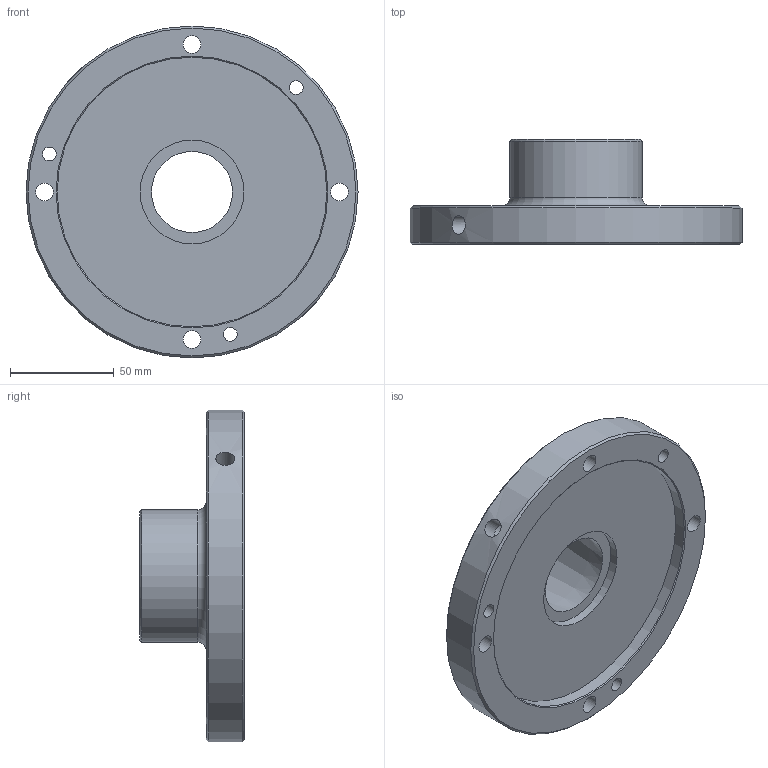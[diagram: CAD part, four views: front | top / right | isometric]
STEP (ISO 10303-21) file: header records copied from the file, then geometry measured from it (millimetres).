
FILE_DESCRIPTION(/* description */ (''),/* implementation_level */ '2;1');
FILE_NAME(/* name */ 'Z:\Проектный отдел\Влад\Фрезерные патроны\Цанговый патрон ER50UM.stp',/* time_stamp */ '2023-04-04T16:08:08+03:00',/* author */ ('инженер'),/* organization */ (''),/* preprocessor_version */ 'ST-DEVELOPER v18',/* originating_system */ 'Autodesk Inventor 2020',/* authorisation */ '');
FILE_SCHEMA (('AUTOMOTIVE_DESIGN { 1 0 10303 214 3 1 1 }'));
Length unit declared in the file: millimetre
Products named in the file (1): Цанговый патрон 
ER50UM
Bounding box: 160 x 50.6 x 160 mm (x, y, z)
Volume: 312217.1 mm3; surface area: 63522.3 mm2
Topology: 1 solids, 1 shells, 26 faces, 79 edges, 58 vertices
Faces by surface type: cylinder 13, cone 7, plane 5, torus 1
Full cylindrical faces by diameter (mm): 6.7 x3, 8.6 x4, 9 x2, 50 x1, 63.7 x1, 130 x1, 160 x1
Entity records: 1086 total; most frequent: CARTESIAN_POINT 232, DIRECTION 180, ORIENTED_EDGE 154, AXIS2_PLACEMENT_3D 80, EDGE_CURVE 77, VERTEX_POINT 58, CIRCLE 53, EDGE_LOOP 47
